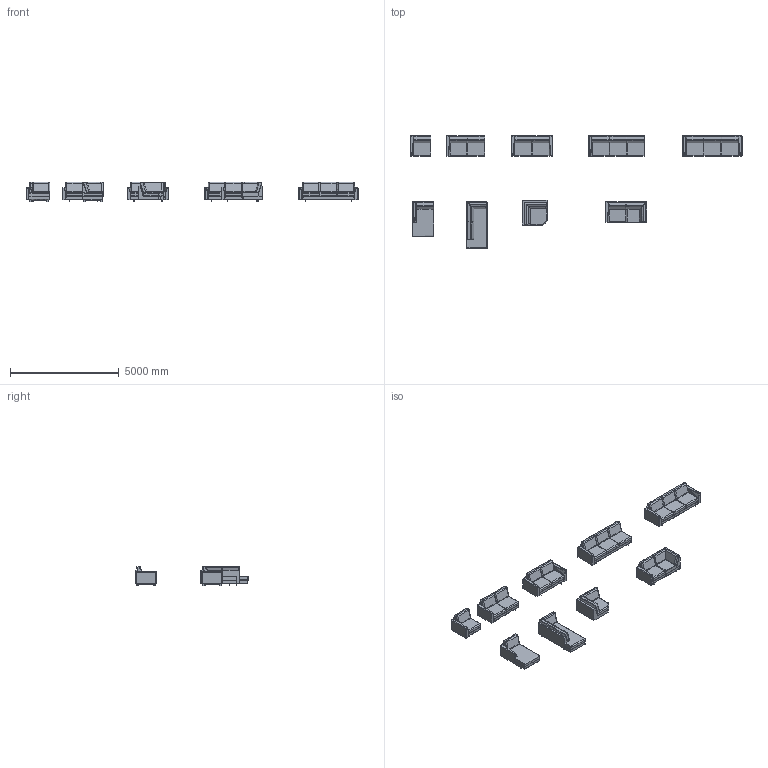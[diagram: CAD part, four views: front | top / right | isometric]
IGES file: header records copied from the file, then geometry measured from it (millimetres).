
Global section: file name: M:\STUDIO polstrin\BA _Datab; native system: Rhinoceros ( Aug 10 2015 ); preprocessor: Trout Lake IGES 012 Aug 10 2015; date: 170123.162736; units: millimetre
Bounding box: 15284.56 x 5195.49 x 902.04 mm (x, y, z)
Surface area: 123159362.8 mm2 (no closed solid volume)
Topology: 0 solids, 0 shells, 1116 faces, 9281 edges, 9400 vertices
Faces by surface type: bspline 1116
